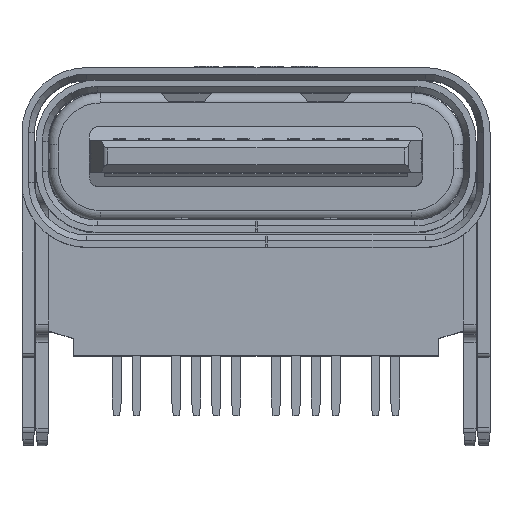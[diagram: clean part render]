
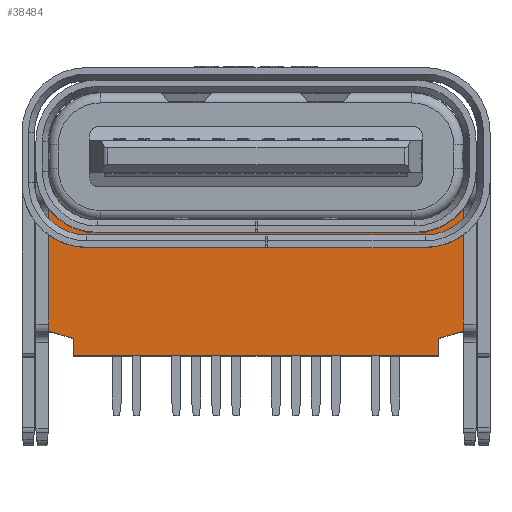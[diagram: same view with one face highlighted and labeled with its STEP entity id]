
A CAD part, top view. The second image highlights one B-rep face of the part: STEP entity #38484.
In plain terms, the highlighted planar face has unit normal (0, 0, 1).
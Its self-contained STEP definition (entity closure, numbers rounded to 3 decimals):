
#196 = ORIENTED_EDGE ( 'NONE', *, *, #11789, .T. ) ;
#268 = DIRECTION ( 'NONE',  ( 0., 1., 0. ) ) ;
#1652 = CARTESIAN_POINT ( 'NONE',  ( -4.17, -0.24, -2.27 ) ) ;
#1702 = EDGE_CURVE ( 'NONE', #21234, #42698, #9956, .T. ) ;
#2573 = CARTESIAN_POINT ( 'NONE',  ( 3.67, -4., -2.27 ) ) ;
#2820 = CARTESIAN_POINT ( 'NONE',  ( -3.13, -0.24, -2.27 ) ) ;
#3000 = CARTESIAN_POINT ( 'NONE',  ( 2.8, -0.785, -2.27 ) ) ;
#3351 = DIRECTION ( 'NONE',  ( 1., 0., 0. ) ) ;
#3745 = VERTEX_POINT ( 'NONE', #27934 ) ;
#4890 = ORIENTED_EDGE ( 'NONE', *, *, #43293, .T. ) ;
#4960 = EDGE_CURVE ( 'NONE', #49580, #18250, #32615, .T. ) ;
#5253 = DIRECTION ( 'NONE',  ( 1., 0., 0. ) ) ;
#5554 = VERTEX_POINT ( 'NONE', #29067 ) ;
#5684 = CARTESIAN_POINT ( 'NONE',  ( 0., -1.28, -2.27 ) ) ;
#5862 = VECTOR ( 'NONE', #14305, 1000. ) ;
#5986 = CARTESIAN_POINT ( 'NONE',  ( 3.13, -0.24, -2.27 ) ) ;
#7035 = DIRECTION ( 'NONE',  ( 0.958, -0.287, 0. ) ) ;
#7049 = VECTOR ( 'NONE', #44183, 1000. ) ;
#7117 = CARTESIAN_POINT ( 'NONE',  ( 0., -4., -2.27 ) ) ;
#7616 = ORIENTED_EDGE ( 'NONE', *, *, #39304, .T. ) ;
#9450 = LINE ( 'NONE', #5684, #7049 ) ;
#9956 = LINE ( 'NONE', #37354, #46357 ) ;
#10744 = EDGE_CURVE ( 'NONE', #21837, #3745, #15171, .T. ) ;
#10863 = CARTESIAN_POINT ( 'NONE',  ( -3.67, -2.109, -2.27 ) ) ;
#10879 = LINE ( 'NONE', #7117, #36212 ) ;
#10900 = PLANE ( 'NONE',  #39678 ) ;
#11069 = CARTESIAN_POINT ( 'NONE',  ( -3.67, -4., -2.27 ) ) ;
#11302 = DIRECTION ( 'NONE',  ( 1., 0., 0. ) ) ;
#11668 = ORIENTED_EDGE ( 'NONE', *, *, #1702, .T. ) ;
#11789 = EDGE_CURVE ( 'NONE', #19815, #21234, #37579, .T. ) ;
#13924 = FACE_OUTER_BOUND ( 'NONE', #48668, .T. ) ;
#14305 = DIRECTION ( 'NONE',  ( -1., 0., 0. ) ) ;
#14855 = EDGE_CURVE ( 'NONE', #5554, #17404, #33871, .T. ) ;
#15123 = VECTOR ( 'NONE', #268, 1000. ) ;
#15171 = LINE ( 'NONE', #33554, #43140 ) ;
#15548 = ORIENTED_EDGE ( 'NONE', *, *, #45047, .T. ) ;
#15998 = EDGE_CURVE ( 'NONE', #42244, #21735, #10879, .T. ) ;
#16833 = CARTESIAN_POINT ( 'NONE',  ( -2.8, -0.785, -2.27 ) ) ;
#17404 = VERTEX_POINT ( 'NONE', #39124 ) ;
#17925 = CARTESIAN_POINT ( 'NONE',  ( 0., -1.28, -2.27 ) ) ;
#18021 = EDGE_CURVE ( 'NONE', #18250, #5554, #48780, .T. ) ;
#18067 = DIRECTION ( 'NONE',  ( 0., 0., -1. ) ) ;
#18250 = VERTEX_POINT ( 'NONE', #43482 ) ;
#18673 = VERTEX_POINT ( 'NONE', #24513 ) ;
#19815 = VERTEX_POINT ( 'NONE', #37619 ) ;
#19834 = VECTOR ( 'NONE', #44617, 1000. ) ;
#21234 = VERTEX_POINT ( 'NONE', #1652 ) ;
#21735 = VERTEX_POINT ( 'NONE', #2573 ) ;
#21837 = VERTEX_POINT ( 'NONE', #30651 ) ;
#22119 = CARTESIAN_POINT ( 'NONE',  ( 3.67, -2.109, -2.27 ) ) ;
#23764 = CARTESIAN_POINT ( 'NONE',  ( 3.893, -3.583, -2.27 ) ) ;
#24513 = CARTESIAN_POINT ( 'NONE',  ( -3.67, -3.65, -2.27 ) ) ;
#24667 = EDGE_CURVE ( 'NONE', #21735, #35181, #45544, .T. ) ;
#24702 = ORIENTED_EDGE ( 'NONE', *, *, #10744, .T. ) ;
#25006 = AXIS2_PLACEMENT_3D ( 'NONE', #16833, #38974, #31928 ) ;
#25901 = ORIENTED_EDGE ( 'NONE', *, *, #4960, .T. ) ;
#26035 = DIRECTION ( 'NONE',  ( 0., -1., 0. ) ) ;
#26230 = LINE ( 'NONE', #17925, #19834 ) ;
#26625 = VECTOR ( 'NONE', #44378, 1000. ) ;
#27334 = DIRECTION ( 'NONE',  ( 0.958, 0.287, 0. ) ) ;
#27934 = CARTESIAN_POINT ( 'NONE',  ( 4.17, -0.24, -2.27 ) ) ;
#28434 = VERTEX_POINT ( 'NONE', #34364 ) ;
#29067 = CARTESIAN_POINT ( 'NONE',  ( -2.625, -1.28, -2.27 ) ) ;
#29280 = CARTESIAN_POINT ( 'NONE',  ( -4.17, -4., -2.27 ) ) ;
#29648 = CIRCLE ( 'NONE', #35264, 1.04 ) ;
#29652 = EDGE_CURVE ( 'NONE', #28434, #49580, #9450, .T. ) ;
#30095 = ORIENTED_EDGE ( 'NONE', *, *, #24667, .T. ) ;
#30651 = CARTESIAN_POINT ( 'NONE',  ( 4.17, -3.5, -2.27 ) ) ;
#31174 = CARTESIAN_POINT ( 'NONE',  ( -3.893, -3.583, -2.27 ) ) ;
#31928 = DIRECTION ( 'NONE',  ( 1., 0., 0. ) ) ;
#32162 = ORIENTED_EDGE ( 'NONE', *, *, #14855, .T. ) ;
#32615 = CIRCLE ( 'NONE', #47887, 0.525 ) ;
#32644 = ORIENTED_EDGE ( 'NONE', *, *, #35649, .T. ) ;
#33554 = CARTESIAN_POINT ( 'NONE',  ( 4.17, -2.109, -2.27 ) ) ;
#33871 = CIRCLE ( 'NONE', #25006, 0.525 ) ;
#34087 = VECTOR ( 'NONE', #27334, 1000. ) ;
#34364 = CARTESIAN_POINT ( 'NONE',  ( 3.13, -1.28, -2.27 ) ) ;
#34939 = LINE ( 'NONE', #31174, #43227 ) ;
#35181 = VERTEX_POINT ( 'NONE', #44601 ) ;
#35264 = AXIS2_PLACEMENT_3D ( 'NONE', #5986, #39716, #5253 ) ;
#35649 = EDGE_CURVE ( 'NONE', #42698, #18673, #34939, .T. ) ;
#36212 = VECTOR ( 'NONE', #3351, 1000. ) ;
#36356 = ORIENTED_EDGE ( 'NONE', *, *, #18021, .T. ) ;
#37199 = CARTESIAN_POINT ( 'NONE',  ( 0., -1.28, -2.27 ) ) ;
#37315 = DIRECTION ( 'NONE',  ( 1., 0., 0. ) ) ;
#37354 = CARTESIAN_POINT ( 'NONE',  ( -4.17, -2.109, -2.27 ) ) ;
#37579 = CIRCLE ( 'NONE', #47269, 1.04 ) ;
#37619 = CARTESIAN_POINT ( 'NONE',  ( -3.13, -1.28, -2.27 ) ) ;
#38484 = ADVANCED_FACE ( 'NONE', ( #13924 ), #10900, .T. ) ;
#38974 = DIRECTION ( 'NONE',  ( 0., 0., -1. ) ) ;
#39124 = CARTESIAN_POINT ( 'NONE',  ( -2.975, -1.28, -2.27 ) ) ;
#39304 = EDGE_CURVE ( 'NONE', #35181, #21837, #49712, .T. ) ;
#39678 = AXIS2_PLACEMENT_3D ( 'NONE', #29280, #44642, #37315 ) ;
#39716 = DIRECTION ( 'NONE',  ( 0., 0., -1. ) ) ;
#42244 = VERTEX_POINT ( 'NONE', #11069 ) ;
#42484 = ORIENTED_EDGE ( 'NONE', *, *, #49165, .T. ) ;
#42550 = ORIENTED_EDGE ( 'NONE', *, *, #29652, .T. ) ;
#42698 = VERTEX_POINT ( 'NONE', #46217 ) ;
#43140 = VECTOR ( 'NONE', #45364, 1000. ) ;
#43227 = VECTOR ( 'NONE', #7035, 1000. ) ;
#43293 = EDGE_CURVE ( 'NONE', #17404, #19815, #26230, .T. ) ;
#43482 = CARTESIAN_POINT ( 'NONE',  ( 2.625, -1.28, -2.27 ) ) ;
#44183 = DIRECTION ( 'NONE',  ( -1., 0., 0. ) ) ;
#44370 = DIRECTION ( 'NONE',  ( 1., 0., 0. ) ) ;
#44378 = DIRECTION ( 'NONE',  ( 0., -1., 0. ) ) ;
#44601 = CARTESIAN_POINT ( 'NONE',  ( 3.67, -3.65, -2.27 ) ) ;
#44617 = DIRECTION ( 'NONE',  ( -1., 0., 0. ) ) ;
#44642 = DIRECTION ( 'NONE',  ( 0., 0., 1. ) ) ;
#44802 = CARTESIAN_POINT ( 'NONE',  ( 2.975, -1.28, -2.27 ) ) ;
#45047 = EDGE_CURVE ( 'NONE', #3745, #28434, #29648, .T. ) ;
#45364 = DIRECTION ( 'NONE',  ( 0., 1., 0. ) ) ;
#45544 = LINE ( 'NONE', #22119, #15123 ) ;
#46126 = ORIENTED_EDGE ( 'NONE', *, *, #15998, .T. ) ;
#46217 = CARTESIAN_POINT ( 'NONE',  ( -4.17, -3.5, -2.27 ) ) ;
#46357 = VECTOR ( 'NONE', #26035, 1000. ) ;
#47269 = AXIS2_PLACEMENT_3D ( 'NONE', #2820, #48133, #44370 ) ;
#47887 = AXIS2_PLACEMENT_3D ( 'NONE', #3000, #18067, #11302 ) ;
#48133 = DIRECTION ( 'NONE',  ( 0., 0., -1. ) ) ;
#48668 = EDGE_LOOP ( 'NONE', ( #36356, #32162, #4890, #196, #11668, #32644, #42484, #46126, #30095, #7616, #24702, #15548, #42550, #25901 ) ) ;
#48780 = LINE ( 'NONE', #37199, #5862 ) ;
#49126 = LINE ( 'NONE', #10863, #26625 ) ;
#49165 = EDGE_CURVE ( 'NONE', #18673, #42244, #49126, .T. ) ;
#49580 = VERTEX_POINT ( 'NONE', #44802 ) ;
#49712 = LINE ( 'NONE', #23764, #34087 ) ;
